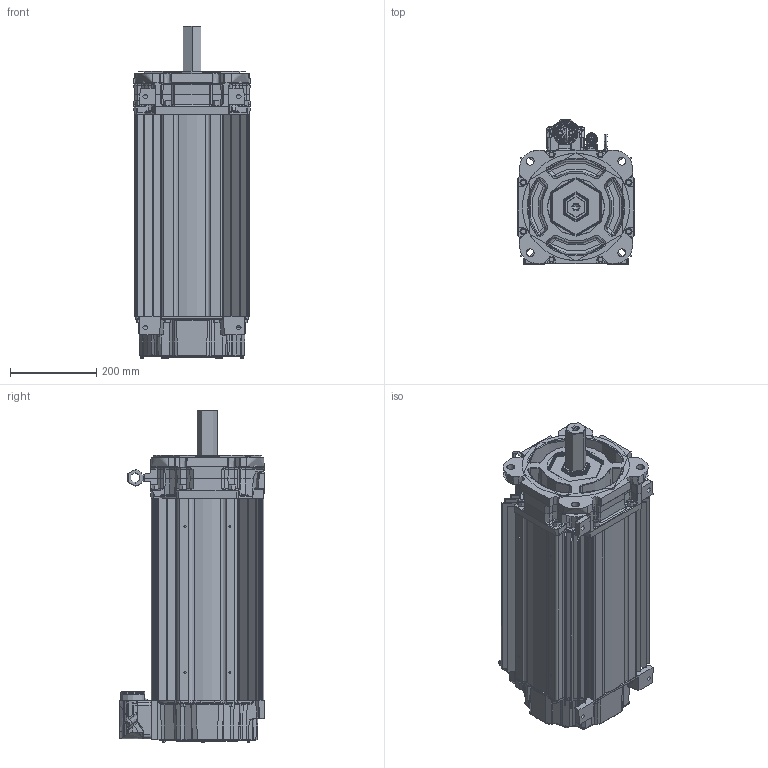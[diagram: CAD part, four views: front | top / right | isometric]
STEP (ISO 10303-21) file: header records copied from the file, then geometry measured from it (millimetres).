
FILE_DESCRIPTION((''),'2;1');
FILE_NAME('10001442216_ASM','2020-01-16T12:17:06',('VThimma'),('Rockwell Automation'),'CREO PARAMETRIC BY PTC INC, 2017380','CREO PARAMETRIC BY PTC INC, 2017380','');
FILE_SCHEMA(('CONFIG_CONTROL_DESIGN','SHAPE_APPEARANCE_LAYERS_GROUPS'));
Products named in the file (27): 10001441960; 10001404634_AF0; 10001404629_AF6; 10001404635_ASM; 10001585735; 10001442014_ASM; 10001439812_KEYLESS; 10001440033_ASM; 10001405269_AF28; 10001405370_ASM; 10001586887; 0002-5004; 10001609981; 10001737030; 10000014325-2; 10000014331; 10000014332-460; 10000014330-460_ASM; 10000172464; 10000046189; 10000046190; 10000046191; 10000046193_ASM; 10001586879; 10001408124; 221404-Q12; 10001442216_ASM
Assembly tree (51 placements, depth 4):
  10001442216_ASM
    10001442014_ASM
      10001441960
      10001404635_ASM
        10001404634_AF0
        10001404629_AF6
      10001585735  x8
    10001440033_ASM
      10001439812_KEYLESS
    10001405370_ASM
      10001405269_AF28
    10001586887  x7
    0002-5004  x2
    10001609981
    10001737030
    10000014330-460_ASM
      10000014325-2
      10000014331
      10000014332-460
    10000172464  x4
    10000046193_ASM
      10000046189
      10000046190
      10000046191
    10001586879  x4
    10001408124
    221404-Q12  x6
Bounding box: 269.49 x 335.29 x 768.83 mm (x, y, z)
Topology: 0 solids, 70 shells, 6704 faces, 17828 edges, 11267 vertices
Faces by surface type: cylinder 2480, plane 1684, bspline 1103, torus 778, cone 532, sphere 109, extrusion 17, revolution 1
Entity records: 336945 total; most frequent: CARTESIAN_POINT 111846, ORIENTED_EDGE 30645, DIRECTION 27499, PRESENTATION_STYLE_ASSIGNMENT 21096, STYLED_ITEM 21096, CURVE_STYLE 15376, EDGE_CURVE 15359, AXIS2_PLACEMENT_3D 11101
